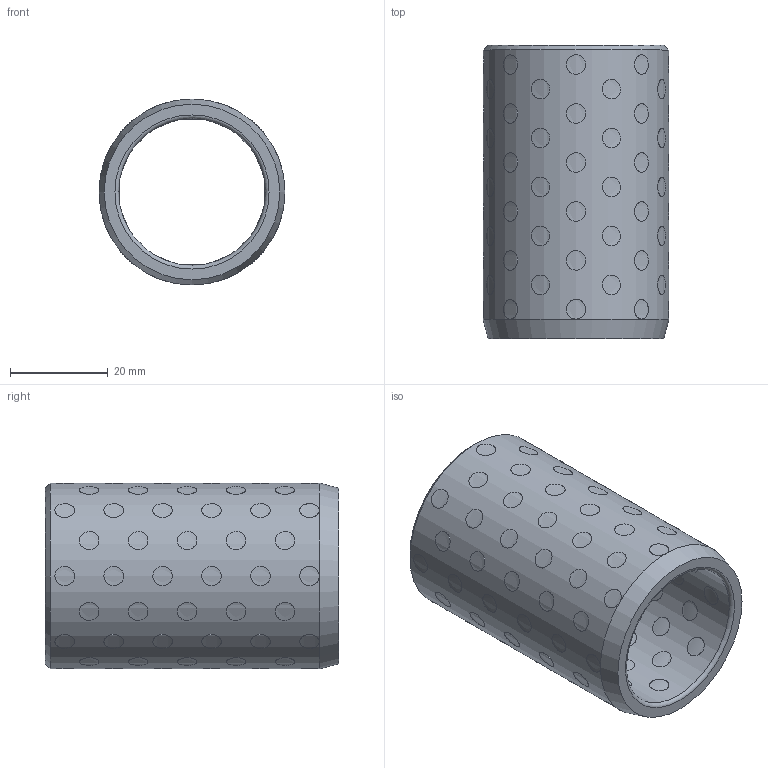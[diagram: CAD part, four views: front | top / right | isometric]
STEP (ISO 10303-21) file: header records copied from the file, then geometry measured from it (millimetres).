
FILE_DESCRIPTION( ( 'STEP AP203' ), '1' );
FILE_NAME( 'D:/Cuma/18 03 2010/D30.04/D30.04_306038.step', '2003-01-24T23:08:06', ( ' ' ), ( ' ' ), 'XStep 1.0', ' ', ' ' );
FILE_SCHEMA( ( 'CONFIG_CONTROL_DESIGN' ) );
Length unit declared in the file: metre
Products named in the file (97): 1; 2; 3; 4; 5; 6; 7; 8; 9; 10; 11; 12; 13; 14; 15; 16; 17; 18; 19; 20; 21; 22; 23; 24; 25; 26; 27; 28; 29; 30; 31; 32; 33; 34; 35; 36; 37; 38; 39; 40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
Bounding box: 38 x 60 x 38 mm (x, y, z)
Volume: 30136.6 mm3; surface area: 20678.9 mm2
Topology: 97 solids, 97 shells, 296 faces, 302 edges, 200 vertices
Faces by surface type: cylinder 290, torus 2, plane 2, cone 2
Full cylindrical faces by diameter (mm): 4 x96, 30 x1, 38 x1
Entity records: 18837 total; most frequent: CARTESIAN_POINT 10969, DIRECTION 802, CC_DESIGN_PERSON_AND_ORGANIZATION_ASSIGNMENT 485, AXIS2_PLACEMENT_3D 401, EDGE_LOOP 400, ORIENTED_EDGE 400, FACE_OUTER_BOUND 396, PERSON_AND_ORGANIZATION_ROLE 388
